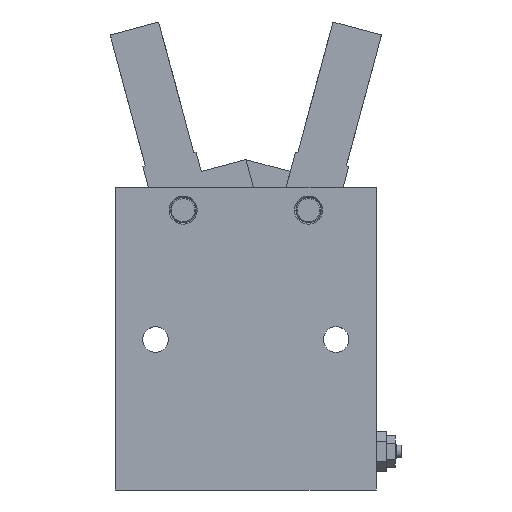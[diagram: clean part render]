
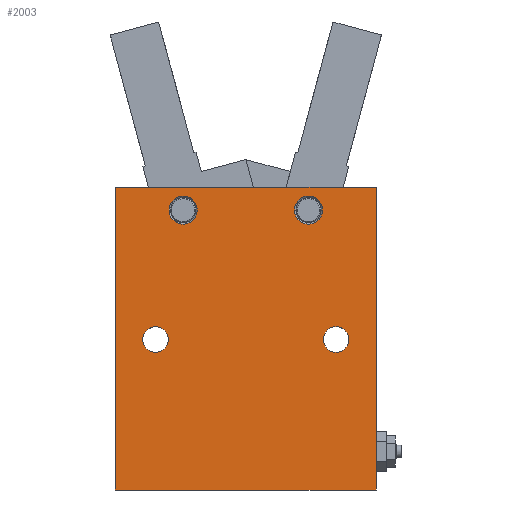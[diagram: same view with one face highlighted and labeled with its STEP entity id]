
A CAD part, front view. The second image highlights one B-rep face of the part: STEP entity #2003.
In plain terms, the highlighted planar face has unit normal (0, -1, 0).
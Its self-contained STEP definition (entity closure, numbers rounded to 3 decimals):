
#672 = CARTESIAN_POINT ( 'NONE',  ( 12.5, -16.8, 28.4 ) ) ;
#676 = DIRECTION ( 'NONE',  ( 0., 0., 1. ) ) ;
#677 = DIRECTION ( 'NONE',  ( 0., 1., 0. ) ) ;
#678 = CARTESIAN_POINT ( 'NONE',  ( 12.5, -16.8, 25.6 ) ) ;
#679 = AXIS2_PLACEMENT_3D ( 'NONE', #678, #677, #676 ) ;
#680 = CIRCLE ( 'NONE', #679, 2.8 ) ;
#685 = CARTESIAN_POINT ( 'NONE',  ( 12.5, -16.8, 22.8 ) ) ;
#695 = CARTESIAN_POINT ( 'NONE',  ( -12.5, -16.8, 22.8 ) ) ;
#696 = DIRECTION ( 'NONE',  ( 0., 0., 1. ) ) ;
#697 = DIRECTION ( 'NONE',  ( 0., 1., 0. ) ) ;
#698 = CARTESIAN_POINT ( 'NONE',  ( -12.5, -16.8, 25.6 ) ) ;
#699 = AXIS2_PLACEMENT_3D ( 'NONE', #698, #697, #696 ) ;
#700 = CIRCLE ( 'NONE', #699, 2.8 ) ;
#752 = CARTESIAN_POINT ( 'NONE',  ( -12.5, -16.8, 28.4 ) ) ;
#795 = DIRECTION ( 'NONE',  ( 0., 0., 1. ) ) ;
#796 = DIRECTION ( 'NONE',  ( 0., 1., 0. ) ) ;
#797 = CARTESIAN_POINT ( 'NONE',  ( 18., -16.8, -0.2 ) ) ;
#798 = AXIS2_PLACEMENT_3D ( 'NONE', #797, #796, #795 ) ;
#799 = CIRCLE ( 'NONE', #798, 2.55 ) ;
#806 = CARTESIAN_POINT ( 'NONE',  ( 18., -16.8, -2.75 ) ) ;
#808 = CARTESIAN_POINT ( 'NONE',  ( 18., -16.8, 2.35 ) ) ;
#1586 = VERTEX_POINT ( 'NONE', #3343 ) ;
#1591 = VERTEX_POINT ( 'NONE', #3338 ) ;
#1620 = EDGE_CURVE ( 'NONE', #1591, #1586, #3400, .T. ) ;
#1690 = EDGE_CURVE ( 'NONE', #1692, #1710, #3516, .T. ) ;
#1692 = VERTEX_POINT ( 'NONE', #3503 ) ;
#1710 = VERTEX_POINT ( 'NONE', #3545 ) ;
#1855 = EDGE_CURVE ( 'NONE', #4935, #4938, #3827, .T. ) ;
#1864 = VERTEX_POINT ( 'NONE', #3810 ) ;
#1889 = VERTEX_POINT ( 'NONE', #3884 ) ;
#1891 = EDGE_CURVE ( 'NONE', #1864, #1889, #3883, .T. ) ;
#1897 = EDGE_CURVE ( 'NONE', #1586, #1591, #3872, .T. ) ;
#1988 = ORIENTED_EDGE ( 'NONE', *, *, #1989, .T. ) ;
#1989 = EDGE_CURVE ( 'NONE', #4859, #4854, #4071, .T. ) ;
#1990 = ORIENTED_EDGE ( 'NONE', *, *, #1897, .T. ) ;
#1991 = ORIENTED_EDGE ( 'NONE', *, *, #1620, .T. ) ;
#1992 = EDGE_LOOP ( 'NONE', ( #1993, #1994 ) ) ;
#1993 = ORIENTED_EDGE ( 'NONE', *, *, #1855, .T. ) ;
#1994 = ORIENTED_EDGE ( 'NONE', *, *, #4944, .T. ) ;
#1995 = EDGE_LOOP ( 'NONE', ( #1996, #1997, #2056, #2057 ) ) ;
#1996 = ORIENTED_EDGE ( 'NONE', *, *, #1891, .T. ) ;
#1997 = ORIENTED_EDGE ( 'NONE', *, *, #1998, .F. ) ;
#1998 = EDGE_CURVE ( 'NONE', #1710, #1889, #4066, .T. ) ;
#2000 = EDGE_CURVE ( 'NONE', #1692, #1864, #4062, .T. ) ;
#2003 = ADVANCED_FACE ( 'NONE', ( #4057, #4056, #4055, #4054, #4053 ), #4052, .F. ) ;
#2004 = EDGE_LOOP ( 'NONE', ( #2005, #2006 ) ) ;
#2005 = ORIENTED_EDGE ( 'NONE', *, *, #4879, .T. ) ;
#2006 = ORIENTED_EDGE ( 'NONE', *, *, #2007, .T. ) ;
#2007 = EDGE_CURVE ( 'NONE', #4885, #4880, #4046, .T. ) ;
#2008 = EDGE_LOOP ( 'NONE', ( #2009, #1988 ) ) ;
#2009 = ORIENTED_EDGE ( 'NONE', *, *, #4855, .T. ) ;
#2010 = EDGE_LOOP ( 'NONE', ( #1990, #1991 ) ) ;
#2056 = ORIENTED_EDGE ( 'NONE', *, *, #1690, .F. ) ;
#2057 = ORIENTED_EDGE ( 'NONE', *, *, #2000, .T. ) ;
#3338 = CARTESIAN_POINT ( 'NONE',  ( -18., -16.8, -2.75 ) ) ;
#3343 = CARTESIAN_POINT ( 'NONE',  ( -18., -16.8, 2.35 ) ) ;
#3396 = DIRECTION ( 'NONE',  ( 0., 0., -1. ) ) ;
#3397 = DIRECTION ( 'NONE',  ( 0., 1., 0. ) ) ;
#3398 = CARTESIAN_POINT ( 'NONE',  ( -18., -16.8, -0.2 ) ) ;
#3399 = AXIS2_PLACEMENT_3D ( 'NONE', #3398, #3397, #3396 ) ;
#3400 = CIRCLE ( 'NONE', #3399, 2.55 ) ;
#3503 = CARTESIAN_POINT ( 'NONE',  ( 26., -16.8, 30.2 ) ) ;
#3508 = DIRECTION ( 'NONE',  ( 0., 0., -1. ) ) ;
#3509 = VECTOR ( 'NONE', #3508, 1000. ) ;
#3510 = CARTESIAN_POINT ( 'NONE',  ( 26., -16.8, -30.2 ) ) ;
#3516 = LINE ( 'NONE', #3510, #3509 ) ;
#3545 = CARTESIAN_POINT ( 'NONE',  ( 26., -16.8, -30.2 ) ) ;
#3810 = CARTESIAN_POINT ( 'NONE',  ( -26., -16.8, 30.2 ) ) ;
#3823 = DIRECTION ( 'NONE',  ( 0., 0., 1. ) ) ;
#3824 = DIRECTION ( 'NONE',  ( 0., 1., 0. ) ) ;
#3825 = CARTESIAN_POINT ( 'NONE',  ( 18., -16.8, -0.2 ) ) ;
#3826 = AXIS2_PLACEMENT_3D ( 'NONE', #3825, #3824, #3823 ) ;
#3827 = CIRCLE ( 'NONE', #3826, 2.55 ) ;
#3865 = DIRECTION ( 'NONE',  ( 0., 0., -1. ) ) ;
#3866 = DIRECTION ( 'NONE',  ( 0., 1., 0. ) ) ;
#3867 = CARTESIAN_POINT ( 'NONE',  ( -18., -16.8, -0.2 ) ) ;
#3868 = AXIS2_PLACEMENT_3D ( 'NONE', #3867, #3866, #3865 ) ;
#3872 = CIRCLE ( 'NONE', #3868, 2.55 ) ;
#3880 = DIRECTION ( 'NONE',  ( 0., 0., -1. ) ) ;
#3881 = VECTOR ( 'NONE', #3880, 1000. ) ;
#3882 = CARTESIAN_POINT ( 'NONE',  ( -26., -16.8, -30.2 ) ) ;
#3883 = LINE ( 'NONE', #3882, #3881 ) ;
#3884 = CARTESIAN_POINT ( 'NONE',  ( -26., -16.8, -30.2 ) ) ;
#4043 = DIRECTION ( 'NONE',  ( 0., 0., 1. ) ) ;
#4044 = DIRECTION ( 'NONE',  ( 0., 1., 0. ) ) ;
#4045 = AXIS2_PLACEMENT_3D ( 'NONE', #4050, #4044, #4043 ) ;
#4046 = CIRCLE ( 'NONE', #4045, 2.8 ) ;
#4047 = DIRECTION ( 'NONE',  ( 0., 0., 1. ) ) ;
#4048 = DIRECTION ( 'NONE',  ( 0., 1., 0. ) ) ;
#4049 = CARTESIAN_POINT ( 'NONE',  ( 26., -16.8, -30.2 ) ) ;
#4050 = CARTESIAN_POINT ( 'NONE',  ( -12.5, -16.8, 25.6 ) ) ;
#4051 = AXIS2_PLACEMENT_3D ( 'NONE', #4049, #4048, #4047 ) ;
#4052 = PLANE ( 'NONE',  #4051 ) ;
#4053 = FACE_OUTER_BOUND ( 'NONE', #1995, .T. ) ;
#4054 = FACE_BOUND ( 'NONE', #1992, .T. ) ;
#4055 = FACE_BOUND ( 'NONE', #2010, .T. ) ;
#4056 = FACE_BOUND ( 'NONE', #2008, .T. ) ;
#4057 = FACE_BOUND ( 'NONE', #2004, .T. ) ;
#4058 = DIRECTION ( 'NONE',  ( -1., 0., 0. ) ) ;
#4059 = VECTOR ( 'NONE', #4058, 1000. ) ;
#4061 = CARTESIAN_POINT ( 'NONE',  ( 26., -16.8, 30.2 ) ) ;
#4062 = LINE ( 'NONE', #4061, #4059 ) ;
#4063 = DIRECTION ( 'NONE',  ( -1., 0., 0. ) ) ;
#4064 = VECTOR ( 'NONE', #4063, 1000. ) ;
#4065 = CARTESIAN_POINT ( 'NONE',  ( 26., -16.8, -30.2 ) ) ;
#4066 = LINE ( 'NONE', #4065, #4064 ) ;
#4067 = DIRECTION ( 'NONE',  ( 0., 0., 1. ) ) ;
#4068 = DIRECTION ( 'NONE',  ( 0., 1., 0. ) ) ;
#4069 = CARTESIAN_POINT ( 'NONE',  ( 12.5, -16.8, 25.6 ) ) ;
#4070 = AXIS2_PLACEMENT_3D ( 'NONE', #4069, #4068, #4067 ) ;
#4071 = CIRCLE ( 'NONE', #4070, 2.8 ) ;
#4854 = VERTEX_POINT ( 'NONE', #685 ) ;
#4855 = EDGE_CURVE ( 'NONE', #4854, #4859, #680, .T. ) ;
#4859 = VERTEX_POINT ( 'NONE', #672 ) ;
#4879 = EDGE_CURVE ( 'NONE', #4880, #4885, #700, .T. ) ;
#4880 = VERTEX_POINT ( 'NONE', #695 ) ;
#4885 = VERTEX_POINT ( 'NONE', #752 ) ;
#4935 = VERTEX_POINT ( 'NONE', #808 ) ;
#4938 = VERTEX_POINT ( 'NONE', #806 ) ;
#4944 = EDGE_CURVE ( 'NONE', #4938, #4935, #799, .T. ) ;
